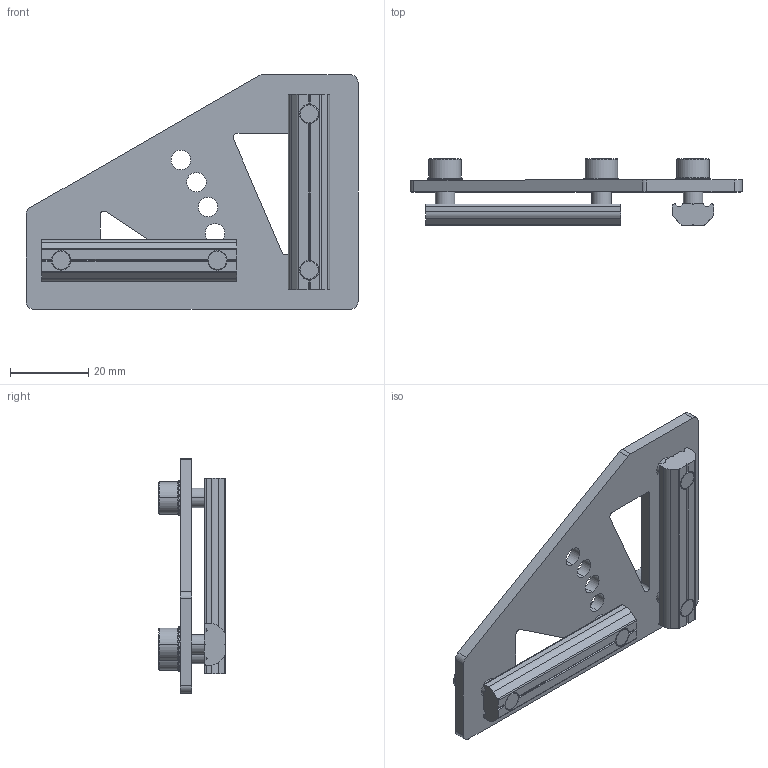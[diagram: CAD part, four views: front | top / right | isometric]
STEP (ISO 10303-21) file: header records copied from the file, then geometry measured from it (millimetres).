
FILE_DESCRIPTION (( 'STEP AP214' ), '1' );
FILE_NAME ('SFP-A60.STEP', '2019-10-30T09:38:45', ( '微软用户' ), ( '微软中国' ), 'SwSTEP 2.0', 'SolidWorks 2016', '' );
FILE_SCHEMA (( 'AUTOMOTIVE_DESIGN' ));
Length unit declared in the file: millimetre
Products named in the file (5): SFP-A60; PTN-M5P40; PTS-M5; PTC-M5L12
Assembly tree (11 placements, depth 2):
  SFP-A60
    SFP-A60
    PTC-M5L12  x4
    PTS-M5  x4
    PTN-M5P40  x2
Bounding box: 85 x 17 x 60 mm (x, y, z)
Volume: 16724.5 mm3; surface area: 14253 mm2
Topology: 11 solids, 11 shells, 877 faces, 2565 edges, 1702 vertices
Faces by surface type: plane 749, cylinder 104, cone 24
Entity records: 9625 total; most frequent: CARTESIAN_POINT 1824, DIRECTION 1627, ORIENTED_EDGE 1614, EDGE_CURVE 807, AXIS2_PLACEMENT_3D 563, VERTEX_POINT 536, VECTOR 501, LINE 501
